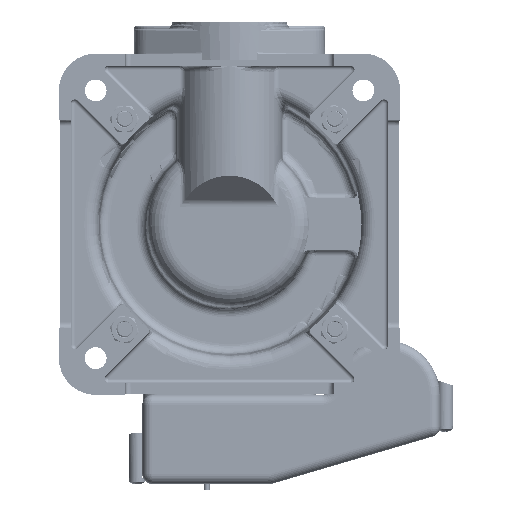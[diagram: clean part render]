
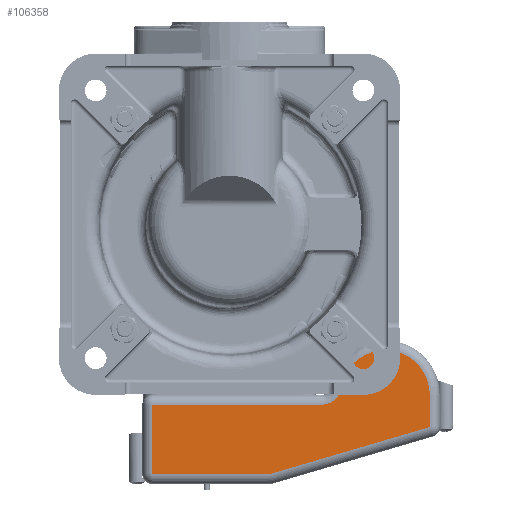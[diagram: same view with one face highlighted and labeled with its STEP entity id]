
A CAD part, front view. The second image highlights one B-rep face of the part: STEP entity #106358.
In plain terms, the highlighted planar face has unit normal (0, -1, 0).
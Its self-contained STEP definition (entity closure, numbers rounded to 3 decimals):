
#1900 = ORIENTED_EDGE ( 'NONE', *, *, #182662, .T. ) ;
#2462 = CARTESIAN_POINT ( 'NONE',  ( 101., 32.5, -86. ) ) ;
#6581 = VECTOR ( 'NONE', #202433, 1000. ) ;
#7643 = PLANE ( 'NONE',  #22395 ) ;
#14214 = VERTEX_POINT ( 'NONE', #125803 ) ;
#22395 = AXIS2_PLACEMENT_3D ( 'NONE', #108360, #72373, #204908 ) ;
#22721 = CARTESIAN_POINT ( 'NONE',  ( 46.387, 32.5, -91. ) ) ;
#26022 = LINE ( 'NONE', #189379, #102504 ) ;
#40361 = CIRCLE ( 'NONE', #169089, 10. ) ;
#41635 = CIRCLE ( 'NONE', #160239, 22.5 ) ;
#41743 = AXIS2_PLACEMENT_3D ( 'NONE', #133634, #95829, #101810 ) ;
#41988 = CARTESIAN_POINT ( 'NONE',  ( -39., 32.5, -126. ) ) ;
#48219 = DIRECTION ( 'NONE',  ( 1., 0., 0. ) ) ;
#55262 = DIRECTION ( 'NONE',  ( 0., 1., 0. ) ) ;
#61614 = CARTESIAN_POINT ( 'NONE',  ( 78.5, 32.5, -86. ) ) ;
#62517 = CARTESIAN_POINT ( 'NONE',  ( 19.505, 32.5, -126. ) ) ;
#72373 = DIRECTION ( 'NONE',  ( 0., 1., 0. ) ) ;
#72387 = ORIENTED_EDGE ( 'NONE', *, *, #150446, .T. ) ;
#78446 = ORIENTED_EDGE ( 'NONE', *, *, #186339, .T. ) ;
#80087 = EDGE_CURVE ( 'NONE', #200667, #14214, #41635, .T. ) ;
#83645 = VERTEX_POINT ( 'NONE', #62517 ) ;
#86077 = ORIENTED_EDGE ( 'NONE', *, *, #114111, .T. ) ;
#86580 = CARTESIAN_POINT ( 'NONE',  ( 101., 32.5, -102.243 ) ) ;
#87316 = EDGE_LOOP ( 'NONE', ( #1900, #72387, #112289, #103187, #159655, #115256, #86077, #78446 ) ) ;
#93472 = DIRECTION ( 'NONE',  ( 1., 0., 0. ) ) ;
#94108 = VECTOR ( 'NONE', #131895, 1000. ) ;
#94579 = VECTOR ( 'NONE', #186540, 1000. ) ;
#95829 = DIRECTION ( 'NONE',  ( 0., -1., 0. ) ) ;
#101810 = DIRECTION ( 'NONE',  ( -1., 0., 0. ) ) ;
#102504 = VECTOR ( 'NONE', #204222, 1000. ) ;
#103187 = ORIENTED_EDGE ( 'NONE', *, *, #113599, .T. ) ;
#106304 = FACE_OUTER_BOUND ( 'NONE', #87316, .T. ) ;
#106358 = ADVANCED_FACE ( 'NONE', ( #106304 ), #7643, .F. ) ;
#108360 = CARTESIAN_POINT ( 'NONE',  ( 78.5, 32.5, -86. ) ) ;
#112289 = ORIENTED_EDGE ( 'NONE', *, *, #80087, .T. ) ;
#113599 = EDGE_CURVE ( 'NONE', #14214, #172048, #40361, .T. ) ;
#114111 = EDGE_CURVE ( 'NONE', #143624, #83645, #155730, .T. ) ;
#115256 = ORIENTED_EDGE ( 'NONE', *, *, #158134, .T. ) ;
#121829 = VERTEX_POINT ( 'NONE', #86580 ) ;
#123871 = CARTESIAN_POINT ( 'NONE',  ( 78.5, 32.5, -91. ) ) ;
#125803 = CARTESIAN_POINT ( 'NONE',  ( 56.268, 32.5, -82.538 ) ) ;
#126326 = DIRECTION ( 'NONE',  ( 0., -1., 0. ) ) ;
#127538 = CARTESIAN_POINT ( 'NONE',  ( -39., 32.5, -86. ) ) ;
#131895 = DIRECTION ( 'NONE',  ( 0., 0., 1. ) ) ;
#133634 = CARTESIAN_POINT ( 'NONE',  ( 19.505, 32.5, -121. ) ) ;
#134936 = VERTEX_POINT ( 'NONE', #192647 ) ;
#137700 = LINE ( 'NONE', #123871, #6581 ) ;
#143624 = VERTEX_POINT ( 'NONE', #41988 ) ;
#146820 = LINE ( 'NONE', #2462, #94108 ) ;
#149371 = VECTOR ( 'NONE', #158345, 1000. ) ;
#150446 = EDGE_CURVE ( 'NONE', #121829, #200667, #146820, .T. ) ;
#152558 = EDGE_CURVE ( 'NONE', #172048, #197565, #137700, .T. ) ;
#155730 = LINE ( 'NONE', #202428, #94579 ) ;
#158134 = EDGE_CURVE ( 'NONE', #197565, #143624, #160466, .T. ) ;
#158345 = DIRECTION ( 'NONE',  ( 0., 0., -1. ) ) ;
#159655 = ORIENTED_EDGE ( 'NONE', *, *, #152558, .T. ) ;
#160239 = AXIS2_PLACEMENT_3D ( 'NONE', #61614, #126326, #93472 ) ;
#160466 = LINE ( 'NONE', #127538, #149371 ) ;
#160507 = CIRCLE ( 'NONE', #41743, 5. ) ;
#169089 = AXIS2_PLACEMENT_3D ( 'NONE', #199588, #55262, #48219 ) ;
#172048 = VERTEX_POINT ( 'NONE', #22721 ) ;
#173157 = CARTESIAN_POINT ( 'NONE',  ( -39., 32.5, -91. ) ) ;
#182662 = EDGE_CURVE ( 'NONE', #134936, #121829, #26022, .T. ) ;
#186339 = EDGE_CURVE ( 'NONE', #83645, #134936, #160507, .T. ) ;
#186540 = DIRECTION ( 'NONE',  ( 1., 0., 0. ) ) ;
#189379 = CARTESIAN_POINT ( 'NONE',  ( 99.589, 32.5, -102.658 ) ) ;
#192647 = CARTESIAN_POINT ( 'NONE',  ( 20.916, 32.5, -125.797 ) ) ;
#197565 = VERTEX_POINT ( 'NONE', #173157 ) ;
#199588 = CARTESIAN_POINT ( 'NONE',  ( 46.387, 32.5, -81. ) ) ;
#200667 = VERTEX_POINT ( 'NONE', #206441 ) ;
#202428 = CARTESIAN_POINT ( 'NONE',  ( 19.505, 32.5, -126. ) ) ;
#202433 = DIRECTION ( 'NONE',  ( -1., 0., 0. ) ) ;
#204222 = DIRECTION ( 'NONE',  ( 0.959, 0., 0.282 ) ) ;
#204908 = DIRECTION ( 'NONE',  ( 1., 0., 0. ) ) ;
#206441 = CARTESIAN_POINT ( 'NONE',  ( 101., 32.5, -86. ) ) ;
